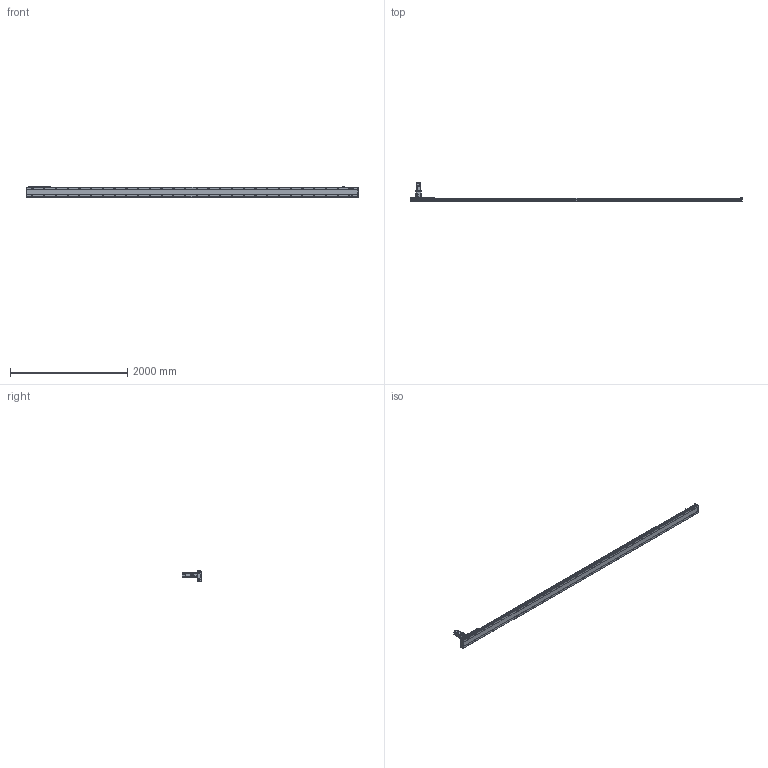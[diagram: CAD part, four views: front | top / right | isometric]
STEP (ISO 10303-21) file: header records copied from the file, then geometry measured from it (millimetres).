
FILE_DESCRIPTION(/* description */ ('STEP AP203'),/* implementation_level */ '2;1');
FILE_NAME(/* name */ 'SHS17A-L13-S5200-BC-T75-C1-N(0)',/* time_stamp */ '2023-03-27T08:59:43+02:00',/* author */ ('License CC BY-ND 4.0'),/* organization */ ('CADENAS'),/* preprocessor_version */ 'ST-DEVELOPER v19.3',/* originating_system */ 'PARTsolutions',/* authorisation */ ' ');
FILE_SCHEMA (('CONFIG_CONTROL_DESIGN'));
Length unit declared in the file: millimetre
Products named in the file (7): SHS17A-L13-S5200-BC-T75-C1-N(0); PSC140-sensor; SHS17A-S5200(0)_body2; T75-p1; SHS17A-S5200_body3; SHS17A-S5200-C1(0)_slider; SHS17A-S5200-C1(0)_body
Assembly tree (13 placements, depth 2):
  SHS17A-L13-S5200-BC-T75-C1-N(0)
    PSC140-sensor  x3
    SHS17A-S5200(0)_body2  x6
    T75-p1
    SHS17A-S5200_body3
    SHS17A-S5200-C1(0)_slider
    SHS17A-S5200-C1(0)_body
Bounding box: 5654 x 333.8 x 193.4 mm (x, y, z)
Volume: 37743375.8 mm3; surface area: 4298395.6 mm2
Topology: 13 solids, 13 shells, 2584 faces, 6616 edges, 4305 vertices
Faces by surface type: plane 1546, cylinder 923, cone 112, torus 3
Full cylindrical faces by diameter (mm): 2.8 x3, 4.134 x24, 4.5 x2, 4.6 x3, 4.917 x15, 5.5 x48, 6 x7, 6.5 x24, 6.647 x66, 6.8 x9, 8 x3, 8.5 x58, 10 x28, 11 x4, 14 x58, 22 x1, 24 x1, 24.2 x1, 28 x1, 28.2 x1, 28.8 x1, 29.8 x1, 48.542 x1, 68 x1, 70 x1, 78 x1, 80 x2
Entity records: 54598 total; most frequent: CARTESIAN_POINT 11158, DIRECTION 8773, ORIENTED_EDGE 8548, EDGE_CURVE 4274, AXIS2_PLACEMENT_3D 3164, VERTEX_POINT 3013, EDGE_LOOP 2561, FACE_BOUND 2561
